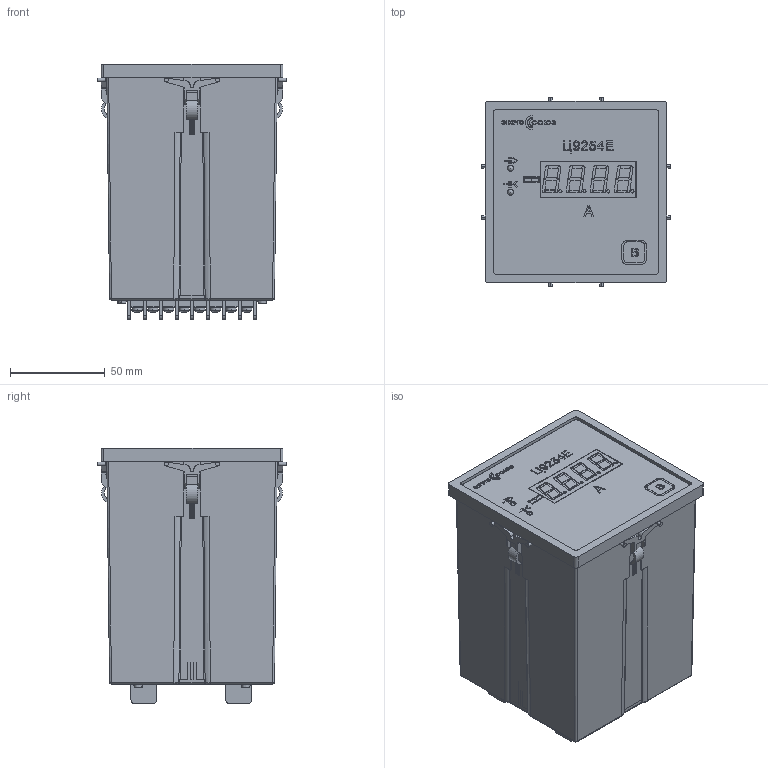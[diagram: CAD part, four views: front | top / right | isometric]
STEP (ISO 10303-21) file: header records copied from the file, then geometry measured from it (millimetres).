
FILE_DESCRIPTION (( 'STEP AP214' ), '1' );
FILE_NAME ('c9254e_98x98x138.STEP', '2025-01-16T05:43:11', ( '' ), ( '' ), 'SwSTEP 2.0', 'SolidWorks 2021', '' );
FILE_SCHEMA (( 'AUTOMOTIVE_DESIGN' ));
Length unit declared in the file: millimetre
Products named in the file (18): pan head cross recess screw_iso_ISO 7045 - M3 x 4 - Z --- 4N; Êîïèÿ round led-2^sborka-c9254e_step; 鼁闉罻 DG35; body_elc_98x98x138(v2.0); øàéáà DG35; îñíîâàíèå DG35; front-panel-e_step; FYQ-5641; back-label-e_step; Êîïèÿ sborka-FYQ-5641^sborka-c9254e_step; 齕鍕趌elc_98x98x138; c9254e_98x98x138; Ñêîáà DG35; round led(no glow)_step; slotted cheese head screw_iso_ISO 1207 - M2.5 x 10 - 10N; Äåòàëü1^Êîïèÿ sborka-FYQ-5641_sborka-c9254e_step; ramka-e-body; green-led
Assembly tree (45 placements, depth 3):
  c9254e_98x98x138
    body_elc_98x98x138(v2.0)
    ramka-e-body
    front-panel-e_step
    Êîïèÿ sborka-FYQ-5641^sborka-c9254e_step
      FYQ-5641
    round led(no glow)_step
    Êîïèÿ round led-2^sborka-c9254e_step
    green-led  x2
    齕鍕趌elc_98x98x138  x4
    鼁闉罻 DG35  x2
      îñíîâàíèå DG35
      Ñêîáà DG35
      pan head cross recess screw_iso_ISO 7045 - M3 x 4 - Z --- 4N
      øàéáà DG35
    slotted cheese head screw_iso_ISO 1207 - M2.5 x 10 - 10N  x4
    back-label-e_step
  Äåòàëü1^Êîïèÿ sborka-FYQ-5641_sborka-c9254e_step
Bounding box: 99.97 x 99.97 x 134.65 mm (x, y, z)
Volume: 126552.2 mm3; surface area: 173657.9 mm2
Topology: 140 solids, 140 shells, 4808 faces, 11879 edges, 7410 vertices
Faces by surface type: plane 2655, bspline 929, cylinder 858, cone 184, sphere 110, torus 72
Entity records: 89498 total; most frequent: CARTESIAN_POINT 30082, ORIENTED_EDGE 10640, DIRECTION 9001, EDGE_CURVE 5320, VECTOR 3795, LINE 3795, VERTEX_POINT 3498, AXIS2_PLACEMENT_3D 2603
